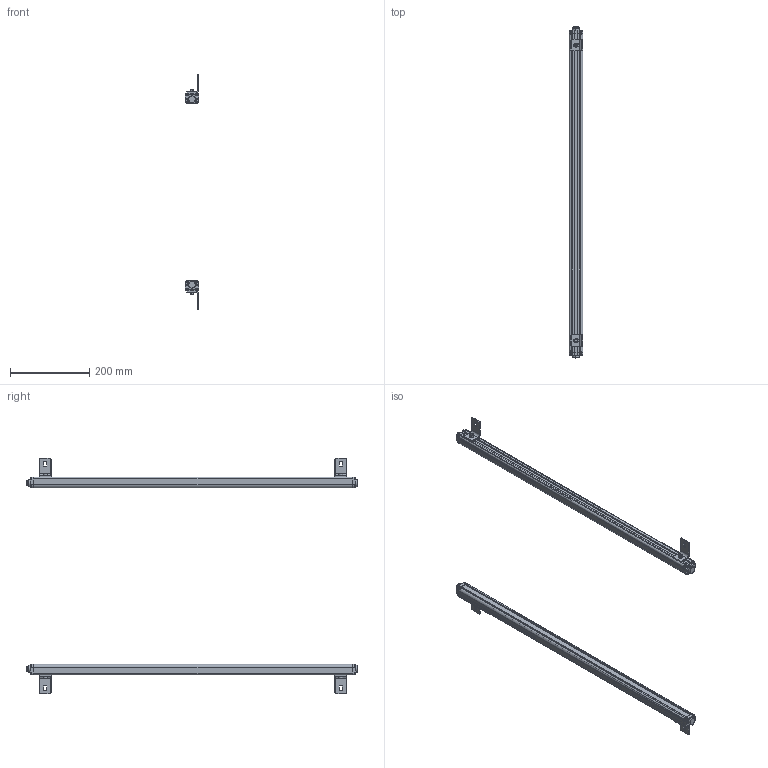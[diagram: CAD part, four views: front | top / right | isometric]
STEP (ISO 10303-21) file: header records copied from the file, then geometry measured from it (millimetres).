
FILE_DESCRIPTION (( 'STEP AP214' ), '1' );
FILE_NAME ('elg2040.STEP', '2018-03-08T12:07:31', ( '' ), ( '' ), 'SwSTEP 2.0', 'SolidWorks 2017', '' );
FILE_SCHEMA (( 'AUTOMOTIVE_DESIGN' ));
Length unit declared in the file: millimetre
Products named in the file (11): elgw-2040; bz1-2040; lgp-2040; hk-2040; dlx-2040; hkct1-2040; glgdg-2040; elg2040; czzj-2040; lx-2040; elgdg03-2040
Assembly tree (40 placements, depth 2):
  elg2040
    elgw-2040  x2
    bz1-2040  x2
    lgp-2040  x2
    glgdg-2040  x2
    elgdg03-2040  x2
    hkct1-2040  x2
    lx-2040  x16
    hk-2040  x4
    czzj-2040  x4
    dlx-2040  x4
Bounding box: 34.7 x 837.6 x 594 mm (x, y, z)
Volume: 589446 mm3; surface area: 625993.5 mm2
Topology: 40 solids, 40 shells, 2160 faces, 5656 edges, 3596 vertices
Faces by surface type: cylinder 1032, plane 688, bspline 440
Entity records: 143185 total; most frequent: CARTESIAN_POINT 128248, ORIENTED_EDGE 3156, DIRECTION 2810, EDGE_CURVE 1578, AXIS2_PLACEMENT_3D 1021, VERTEX_POINT 1014, VECTOR 768, LINE 768
